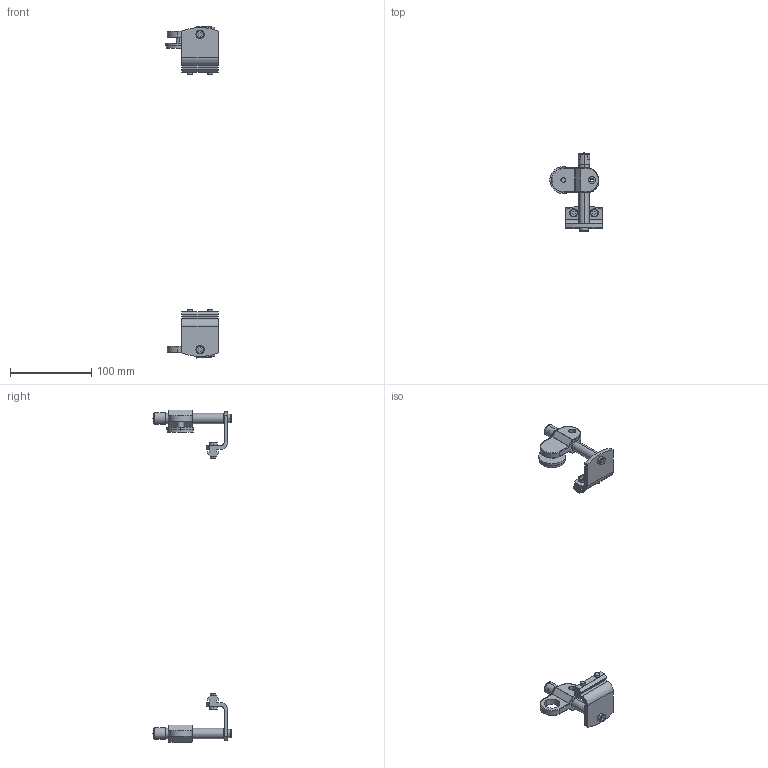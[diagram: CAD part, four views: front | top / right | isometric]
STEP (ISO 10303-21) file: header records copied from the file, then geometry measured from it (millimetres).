
FILE_DESCRIPTION((''),'2;1');
FILE_NAME('75M-PM_ASM','2016-10-17T',('jenni.wallner'),(''),'PRO/ENGINEER BY PARAMETRIC TECHNOLOGY CORPORATION, 2012420','PRO/ENGINEER BY PARAMETRIC TECHNOLOGY CORPORATION, 2012420','');
FILE_SCHEMA(('CONFIG_CONTROL_DESIGN'));
Length unit declared in the file: inch
Products named in the file (4): BRACKET_2; THROUGH_BEAM; REFLECTOR_1; 75M-PM_ASM
Assembly tree (4 placements, depth 2):
  75M-PM_ASM
    BRACKET_2  x2
    THROUGH_BEAM
    REFLECTOR_1
Bounding box: 64.14 x 96.38 x 407.79 mm (x, y, z)
Volume: 91574.3 mm3; surface area: 44774.1 mm2
Topology: 4 solids, 9 shells, 391 faces, 909 edges, 568 vertices
Faces by surface type: plane 158, cylinder 157, cone 40, bspline 20, torus 12, sphere 4
Entity records: 8942 total; most frequent: CARTESIAN_POINT 2899, DIRECTION 1247, ORIENTED_EDGE 1210, EDGE_CURVE 605, AXIS2_PLACEMENT_3D 467, VERTEX_POINT 378, VECTOR 313, LINE 313
